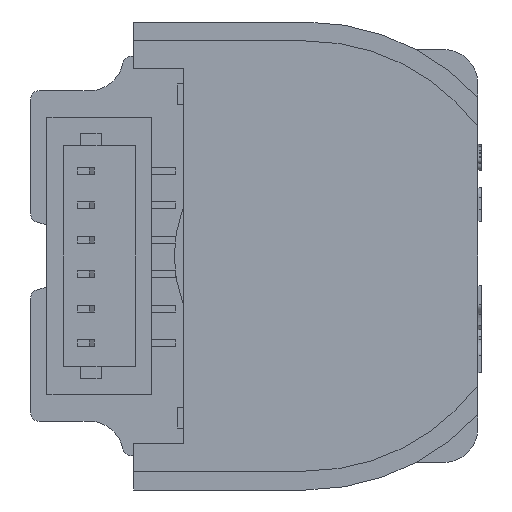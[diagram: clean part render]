
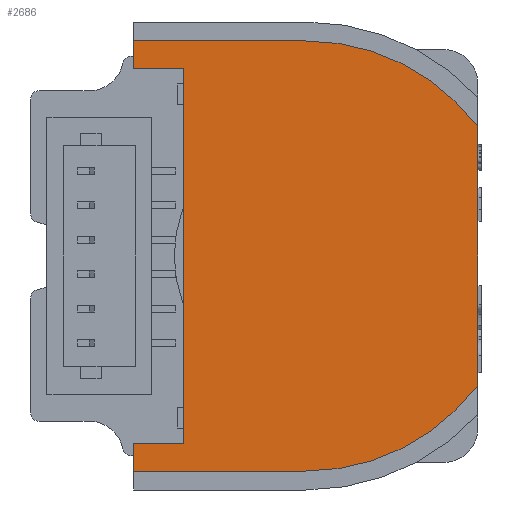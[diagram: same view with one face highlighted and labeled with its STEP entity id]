
A CAD part, left-side view. The second image highlights one B-rep face of the part: STEP entity #2686.
In plain terms, the highlighted planar face has unit normal (-1, 0, 0).
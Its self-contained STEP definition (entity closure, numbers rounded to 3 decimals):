
#1380 = DIRECTION ( 'NONE',  ( -1., 0., 0. ) ) ;
#2686 = ADVANCED_FACE ( 'NONE', ( #131440 ), #70448, .T. ) ;
#7271 = EDGE_CURVE ( 'NONE', #30227, #47995, #143768, .T. ) ;
#7768 = CARTESIAN_POINT ( 'NONE',  ( -4.1, 5., -5.45 ) ) ;
#10540 = EDGE_LOOP ( 'NONE', ( #130882, #153697, #101326, #48903, #59099, #25544, #27501, #61239, #59514, #152541 ) ) ;
#12432 = DIRECTION ( 'NONE',  ( 0., 0., 1. ) ) ;
#13768 = EDGE_CURVE ( 'NONE', #87455, #138937, #54350, .T. ) ;
#16715 = CARTESIAN_POINT ( 'NONE',  ( -4.1, 3.55, -5.45 ) ) ;
#19872 = CARTESIAN_POINT ( 'NONE',  ( -4.1, 0., 6.25 ) ) ;
#21127 = EDGE_CURVE ( 'NONE', #84934, #30227, #108321, .T. ) ;
#22221 = LINE ( 'NONE', #83200, #135673 ) ;
#22547 = CARTESIAN_POINT ( 'NONE',  ( -4.1, 0., -6.25 ) ) ;
#23757 = LINE ( 'NONE', #72116, #72712 ) ;
#25544 = ORIENTED_EDGE ( 'NONE', *, *, #13768, .T. ) ;
#27501 = ORIENTED_EDGE ( 'NONE', *, *, #106265, .T. ) ;
#28326 = EDGE_CURVE ( 'NONE', #47995, #125026, #22221, .T. ) ;
#30227 = VERTEX_POINT ( 'NONE', #19872 ) ;
#30540 = CARTESIAN_POINT ( 'NONE',  ( -4.1, -5., 3.75 ) ) ;
#30921 = DIRECTION ( 'NONE',  ( 0., 1., 0. ) ) ;
#32039 = DIRECTION ( 'NONE',  ( 0., 0., 1. ) ) ;
#33779 = LINE ( 'NONE', #69418, #122465 ) ;
#34101 = EDGE_CURVE ( 'NONE', #150820, #71777, #23757, .T. ) ;
#39798 = CARTESIAN_POINT ( 'NONE',  ( -4.1, -5., -3.75 ) ) ;
#41685 = VERTEX_POINT ( 'NONE', #48702 ) ;
#41888 = DIRECTION ( 'NONE',  ( -1., 0., 0. ) ) ;
#43457 = VECTOR ( 'NONE', #129111, 1000. ) ;
#43938 = VERTEX_POINT ( 'NONE', #136150 ) ;
#45988 = DIRECTION ( 'NONE',  ( 0., 0., -1. ) ) ;
#46713 = CARTESIAN_POINT ( 'NONE',  ( -4.1, 3.55, 5.45 ) ) ;
#47343 = VECTOR ( 'NONE', #30921, 1000. ) ;
#47468 = CARTESIAN_POINT ( 'NONE',  ( -4.1, 0., 0. ) ) ;
#47995 = VERTEX_POINT ( 'NONE', #123182 ) ;
#48232 = DIRECTION ( 'NONE',  ( 0., 0., 1. ) ) ;
#48702 = CARTESIAN_POINT ( 'NONE',  ( -4.1, 3.55, 5.45 ) ) ;
#48903 = ORIENTED_EDGE ( 'NONE', *, *, #34101, .T. ) ;
#54350 = CIRCLE ( 'NONE', #155691, 6.25 ) ;
#59099 = ORIENTED_EDGE ( 'NONE', *, *, #67663, .T. ) ;
#59514 = ORIENTED_EDGE ( 'NONE', *, *, #7271, .T. ) ;
#61239 = ORIENTED_EDGE ( 'NONE', *, *, #21127, .T. ) ;
#62399 = CARTESIAN_POINT ( 'NONE',  ( -4.1, 0., 0. ) ) ;
#64686 = EDGE_CURVE ( 'NONE', #43938, #150820, #138766, .T. ) ;
#67663 = EDGE_CURVE ( 'NONE', #71777, #87455, #134997, .T. ) ;
#69418 = CARTESIAN_POINT ( 'NONE',  ( -4.1, 5., 5.45 ) ) ;
#69680 = LINE ( 'NONE', #46713, #43457 ) ;
#70448 = PLANE ( 'NONE',  #92671 ) ;
#71777 = VERTEX_POINT ( 'NONE', #72221 ) ;
#72116 = CARTESIAN_POINT ( 'NONE',  ( -4.1, 5., 6. ) ) ;
#72221 = CARTESIAN_POINT ( 'NONE',  ( -4.1, 5., -6.25 ) ) ;
#72712 = VECTOR ( 'NONE', #45988, 1000. ) ;
#74003 = CARTESIAN_POINT ( 'NONE',  ( -4.1, 0., -6.25 ) ) ;
#80940 = VECTOR ( 'NONE', #97732, 1000. ) ;
#83200 = CARTESIAN_POINT ( 'NONE',  ( -4.1, 5., 6. ) ) ;
#84934 = VERTEX_POINT ( 'NONE', #30540 ) ;
#87455 = VERTEX_POINT ( 'NONE', #22547 ) ;
#92671 = AXIS2_PLACEMENT_3D ( 'NONE', #47468, #1380, #48232 ) ;
#93897 = DIRECTION ( 'NONE',  ( 0., -1., 0. ) ) ;
#96032 = CARTESIAN_POINT ( 'NONE',  ( -4.1, 5., 6.25 ) ) ;
#96485 = EDGE_CURVE ( 'NONE', #41685, #43938, #69680, .T. ) ;
#97732 = DIRECTION ( 'NONE',  ( 0., -1., 0. ) ) ;
#97974 = DIRECTION ( 'NONE',  ( -1., 0., 0. ) ) ;
#101326 = ORIENTED_EDGE ( 'NONE', *, *, #64686, .T. ) ;
#101334 = EDGE_CURVE ( 'NONE', #125026, #41685, #33779, .T. ) ;
#102528 = LINE ( 'NONE', #128708, #124342 ) ;
#106265 = EDGE_CURVE ( 'NONE', #138937, #84934, #102528, .T. ) ;
#108321 = CIRCLE ( 'NONE', #151337, 6.25 ) ;
#115541 = DIRECTION ( 'NONE',  ( 0., 0., 1. ) ) ;
#122465 = VECTOR ( 'NONE', #93897, 1000. ) ;
#123182 = CARTESIAN_POINT ( 'NONE',  ( -4.1, 5., 6.25 ) ) ;
#124342 = VECTOR ( 'NONE', #32039, 1000. ) ;
#125026 = VERTEX_POINT ( 'NONE', #143616 ) ;
#127437 = CARTESIAN_POINT ( 'NONE',  ( -4.1, 0., 0. ) ) ;
#128708 = CARTESIAN_POINT ( 'NONE',  ( -4.1, -5., 3.473 ) ) ;
#129111 = DIRECTION ( 'NONE',  ( 0., 0., -1. ) ) ;
#130882 = ORIENTED_EDGE ( 'NONE', *, *, #101334, .T. ) ;
#131440 = FACE_OUTER_BOUND ( 'NONE', #10540, .T. ) ;
#134997 = LINE ( 'NONE', #74003, #80940 ) ;
#135673 = VECTOR ( 'NONE', #142745, 1000. ) ;
#136150 = CARTESIAN_POINT ( 'NONE',  ( -4.1, 3.55, -5.45 ) ) ;
#138766 = LINE ( 'NONE', #16715, #47343 ) ;
#138937 = VERTEX_POINT ( 'NONE', #39798 ) ;
#142745 = DIRECTION ( 'NONE',  ( 0., 0., -1. ) ) ;
#143616 = CARTESIAN_POINT ( 'NONE',  ( -4.1, 5., 5.45 ) ) ;
#143768 = LINE ( 'NONE', #96032, #147309 ) ;
#144552 = DIRECTION ( 'NONE',  ( 0., 1., 0. ) ) ;
#147309 = VECTOR ( 'NONE', #144552, 1000. ) ;
#150820 = VERTEX_POINT ( 'NONE', #7768 ) ;
#151337 = AXIS2_PLACEMENT_3D ( 'NONE', #62399, #97974, #12432 ) ;
#152541 = ORIENTED_EDGE ( 'NONE', *, *, #28326, .T. ) ;
#153697 = ORIENTED_EDGE ( 'NONE', *, *, #96485, .T. ) ;
#155691 = AXIS2_PLACEMENT_3D ( 'NONE', #127437, #41888, #115541 ) ;
